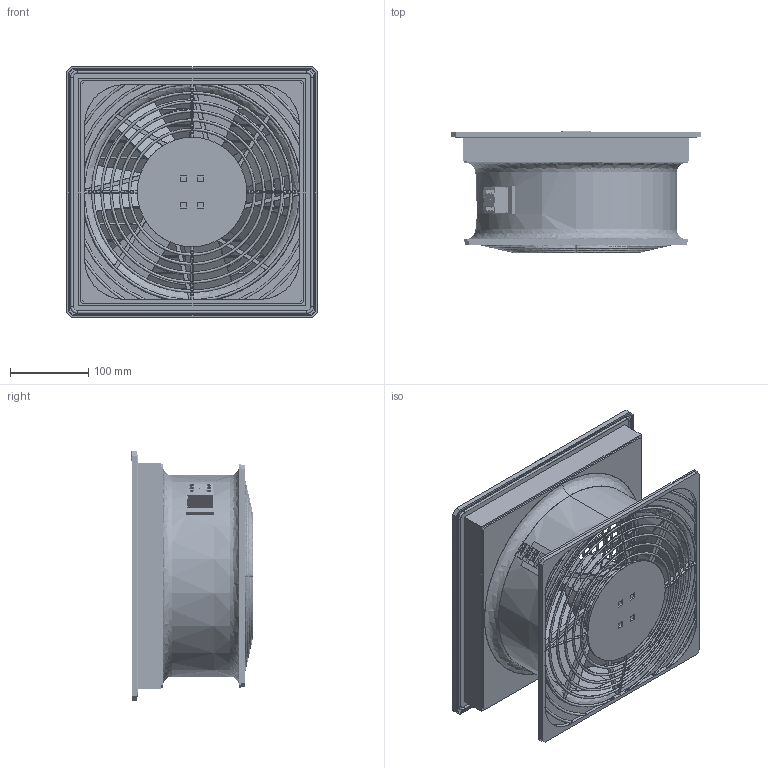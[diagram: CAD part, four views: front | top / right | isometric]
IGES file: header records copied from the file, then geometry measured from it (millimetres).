
Start section: SolidWorks IGES file using analytic representation for surfaces
Global section: file name: C:\PDMWTemp\PFx abgespeckt\PF6x000.IGS; native system: SolidWorks 2007; preprocessor: SolidWorks 2007; author: AHoltz; date: 070525.140813; units: millimetre
Bounding box: 320 x 155.94 x 320 mm (x, y, z)
Surface area: 998088.2 mm2 (no closed solid volume)
Topology: 0 solids, 0 shells, 1902 faces, 26765 edges, 26742 vertices
Faces by surface type: bspline 1356, revolution 546
